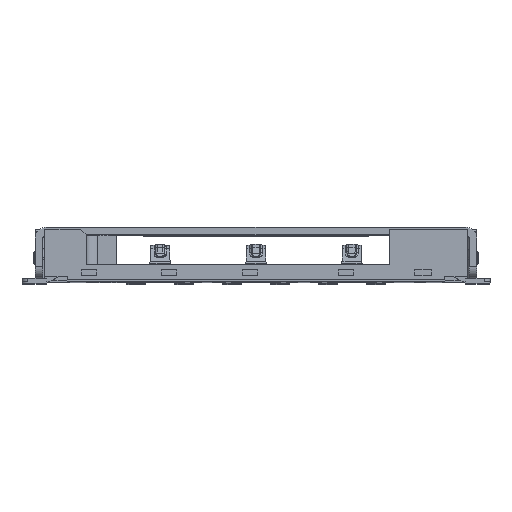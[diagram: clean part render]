
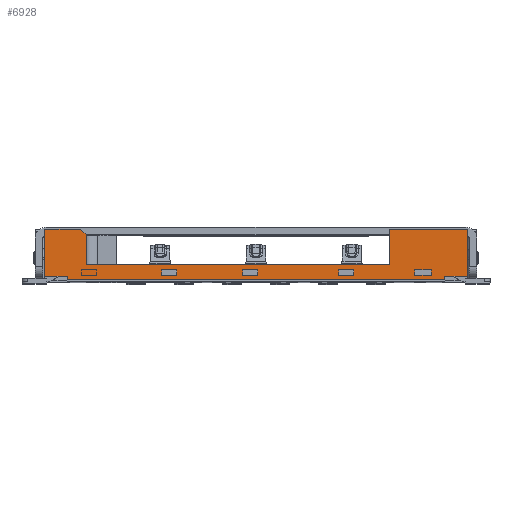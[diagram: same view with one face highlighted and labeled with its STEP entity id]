
A CAD part, top view. The second image highlights one B-rep face of the part: STEP entity #6928.
In plain terms, the highlighted planar face has unit normal (0, 0, 1).
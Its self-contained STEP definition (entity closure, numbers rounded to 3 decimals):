
#216=DIRECTION('',(-1.,0.,0.));
#217=VECTOR('',#216,10.);
#218=CARTESIAN_POINT('',(5.,0.03,6.));
#219=LINE('',#218,#217);
#621=DIRECTION('',(0.,-1.,0.));
#622=VECTOR('',#621,0.8);
#623=CARTESIAN_POINT('',(-4.5,1.23,6.));
#624=LINE('',#623,#622);
#685=DIRECTION('',(-1.,0.,0.));
#686=VECTOR('',#685,0.95);
#687=CARTESIAN_POINT('',(-4.65,1.38,6.));
#688=LINE('',#687,#686);
#689=DIRECTION('',(-0.707,0.707,0.));
#690=VECTOR('',#689,0.212);
#691=CARTESIAN_POINT('',(-4.5,1.23,6.));
#692=LINE('',#691,#690);
#693=DIRECTION('',(-1.,0.,0.));
#694=VECTOR('',#693,2.07);
#695=CARTESIAN_POINT('',(5.6,1.38,6.));
#696=LINE('',#695,#694);
#697=DIRECTION('',(0.,1.,0.));
#698=VECTOR('',#697,1.25);
#699=CARTESIAN_POINT('',(5.6,0.13,6.));
#700=LINE('',#699,#698);
#701=DIRECTION('',(1.,0.,0.));
#702=VECTOR('',#701,0.6);
#703=CARTESIAN_POINT('',(5.,0.13,6.));
#704=LINE('',#703,#702);
#705=DIRECTION('',(1.,0.,0.));
#706=VECTOR('',#705,0.6);
#707=CARTESIAN_POINT('',(-5.6,0.13,6.));
#708=LINE('',#707,#706);
#709=DIRECTION('',(0.,-1.,0.));
#710=VECTOR('',#709,1.25);
#711=CARTESIAN_POINT('',(-5.6,1.38,6.));
#712=LINE('',#711,#710);
#769=DIRECTION('',(0.,1.,0.));
#770=VECTOR('',#769,0.1);
#771=CARTESIAN_POINT('',(-5.,0.03,6.));
#772=LINE('',#771,#770);
#1114=DIRECTION('',(1.,0.,0.));
#1115=VECTOR('',#1114,8.03);
#1116=CARTESIAN_POINT('',(-4.5,0.43,6.));
#1117=LINE('',#1116,#1115);
#1717=DIRECTION('',(0.,1.,0.));
#1718=VECTOR('',#1717,0.95);
#1719=CARTESIAN_POINT('',(3.53,0.43,6.));
#1720=LINE('',#1719,#1718);
#2380=DIRECTION('',(0.,-1.,0.));
#2381=VECTOR('',#2380,0.1);
#2382=CARTESIAN_POINT('',(5.,0.13,6.));
#2383=LINE('',#2382,#2381);
#4475=CARTESIAN_POINT('',(5.,0.03,6.));
#4476=VERTEX_POINT('',#4475);
#4477=CARTESIAN_POINT('',(-5.,0.03,6.));
#4478=VERTEX_POINT('',#4477);
#5133=CARTESIAN_POINT('',(5.6,0.13,6.));
#5134=CARTESIAN_POINT('',(5.6,1.38,6.));
#5135=VERTEX_POINT('',#5133);
#5136=VERTEX_POINT('',#5134);
#5139=CARTESIAN_POINT('',(3.53,1.38,6.));
#5141=VERTEX_POINT('',#5139);
#5157=CARTESIAN_POINT('',(3.53,0.43,6.));
#5158=VERTEX_POINT('',#5157);
#5159=CARTESIAN_POINT('',(-4.65,1.38,6.));
#5160=CARTESIAN_POINT('',(-5.6,1.38,6.));
#5161=VERTEX_POINT('',#5159);
#5162=VERTEX_POINT('',#5160);
#5163=CARTESIAN_POINT('',(-5.6,0.13,6.));
#5164=VERTEX_POINT('',#5163);
#5165=CARTESIAN_POINT('',(-5.,0.13,6.));
#5166=VERTEX_POINT('',#5165);
#5167=CARTESIAN_POINT('',(5.,0.13,6.));
#5168=VERTEX_POINT('',#5167);
#5169=CARTESIAN_POINT('',(-4.5,0.43,6.));
#5170=VERTEX_POINT('',#5169);
#5171=CARTESIAN_POINT('',(-4.5,1.23,6.));
#5172=VERTEX_POINT('',#5171);
#6897=CARTESIAN_POINT('',(0.,0.705,6.));
#6898=DIRECTION('',(0.,0.,1.));
#6899=DIRECTION('',(-1.,0.,0.));
#6900=AXIS2_PLACEMENT_3D('',#6897,#6898,#6899);
#6901=PLANE('',#6900);
#6903=ORIENTED_EDGE('',*,*,#6902,.F.);
#6905=ORIENTED_EDGE('',*,*,#6904,.F.);
#6906=ORIENTED_EDGE('',*,*,#6850,.T.);
#6908=ORIENTED_EDGE('',*,*,#6907,.T.);
#6910=ORIENTED_EDGE('',*,*,#6909,.T.);
#6912=ORIENTED_EDGE('',*,*,#6911,.F.);
#6914=ORIENTED_EDGE('',*,*,#6913,.F.);
#6916=ORIENTED_EDGE('',*,*,#6915,.F.);
#6918=ORIENTED_EDGE('',*,*,#6917,.T.);
#6919=ORIENTED_EDGE('',*,*,#6010,.T.);
#6921=ORIENTED_EDGE('',*,*,#6920,.T.);
#6923=ORIENTED_EDGE('',*,*,#6922,.F.);
#6925=ORIENTED_EDGE('',*,*,#6924,.F.);
#6926=EDGE_LOOP('',(#6903,#6905,#6906,#6908,#6910,#6912,#6914,#6916,#6918,#6919,
#6921,#6923,#6925));
#6927=FACE_OUTER_BOUND('',#6926,.F.);
#6928=ADVANCED_FACE('',(#6927),#6901,.T.);
#6010=EDGE_CURVE('',#4476,#4478,#219,.T.);
#6850=EDGE_CURVE('',#5172,#5170,#624,.T.);
#6902=EDGE_CURVE('',#5161,#5162,#688,.T.);
#6904=EDGE_CURVE('',#5172,#5161,#692,.T.);
#6907=EDGE_CURVE('',#5170,#5158,#1117,.T.);
#6909=EDGE_CURVE('',#5158,#5141,#1720,.T.);
#6911=EDGE_CURVE('',#5136,#5141,#696,.T.);
#6913=EDGE_CURVE('',#5135,#5136,#700,.T.);
#6915=EDGE_CURVE('',#5168,#5135,#704,.T.);
#6917=EDGE_CURVE('',#5168,#4476,#2383,.T.);
#6920=EDGE_CURVE('',#4478,#5166,#772,.T.);
#6922=EDGE_CURVE('',#5164,#5166,#708,.T.);
#6924=EDGE_CURVE('',#5162,#5164,#712,.T.);
